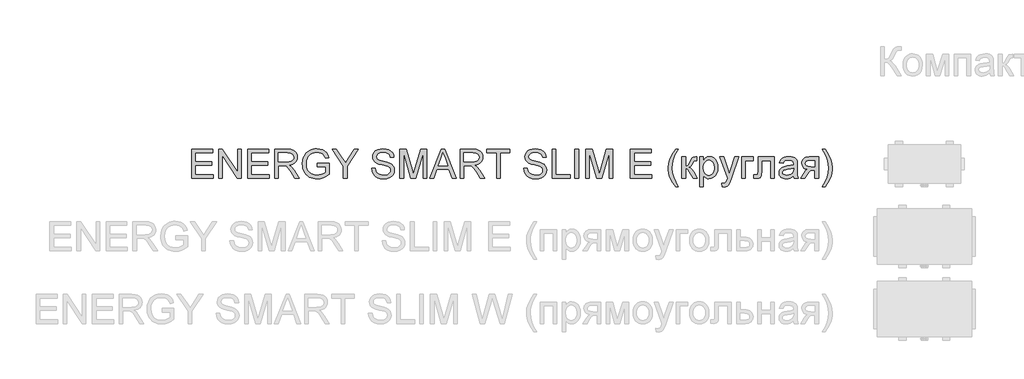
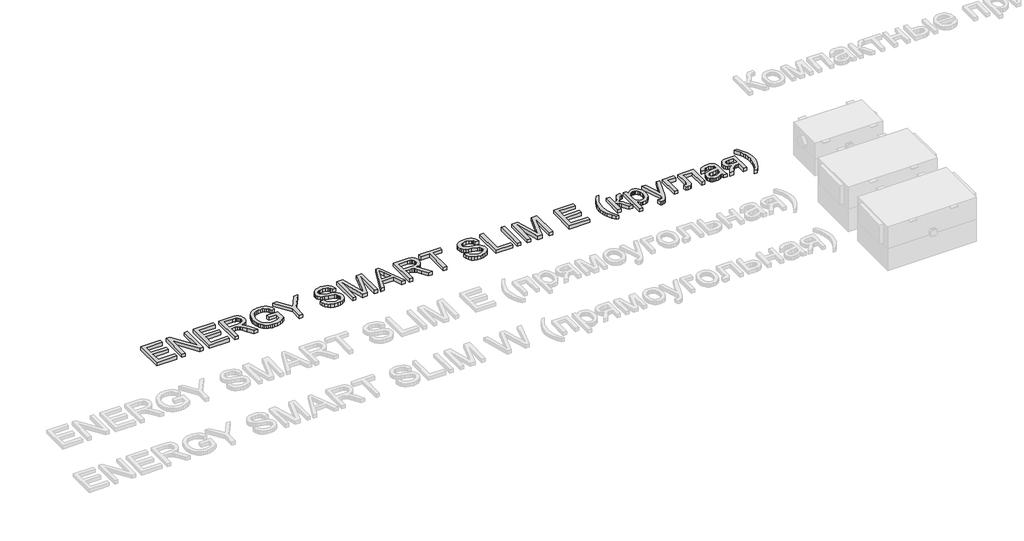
# One storey, part 27 of 28: 1 proxy.
"""IFC4 building model written with IfcOpenShell, lengths in millimetres."""

from ifc_helpers import new_model, si_unit, origin, origin_with_axes, place, context, project, spatial, polyline, outline, extrude, element, save

model = new_model("IFC4")

# Units and contexts
model_context = context("Model", 3, world=origin())
ifc_project = project(units=[si_unit("LENGTHUNIT", "METRE", prefix="MILLI")], contexts=[model_context])

# Site, building, storey
site = spatial("IfcSite", under=ifc_project)
building = spatial("IfcBuilding", under=site)
storey = spatial("IfcBuildingStorey", under=building, Name="Уровень 1", Elevation=0.0)

# Proxy
placement = place(None, origin())
element("IfcBuildingElementProxy", 1, Name="400 мм Arial", ObjectType="400 мм Arial", at=placement, inside=storey, context=model_context, shape_type="SweptSolid", body=[
    extrude(outline(polyline([(-30775.0348454, 22271.2907411), (-30775.0348454, 22673.1159817), (-30486.2229537, 22673.1159817), (-30486.2229537, 22622.8878267), (-30724.8066903, 22622.8878267), (-30724.8066903, 22503.5959584), (-30498.7799925, 22503.5959584), (-30498.7799925, 22453.3678033), (-30724.8066903, 22453.3678033), (-30724.8066903, 22321.5188962), (-30479.9444343, 22321.5188962), (-30479.9444343, 22271.2907411), (-30775.0348454, 22271.2907411)])), origin_with_axes(), (0.0, 0.0, 1.0), 50.0),
    extrude(outline(polyline([(-30404.6022017, 22271.2907411), (-30404.6022017, 22673.1159817), (-30350.8423795, 22673.1159817), (-30140.9043876, 22354.7754286), (-30140.9043876, 22673.1159817), (-30090.6762325, 22673.1159817), (-30090.6762325, 22271.2907411), (-30144.4360547, 22271.2907411), (-30354.3740466, 22589.7293962), (-30354.3740466, 22271.2907411), (-30404.6022017, 22271.2907411)])), origin_with_axes(), (0.0, 0.0, 1.0), 50.0),
    extrude(outline(polyline([(-30002.7769611, 22271.2907411), (-30002.7769611, 22673.1159817), (-29713.9650694, 22673.1159817), (-29713.9650694, 22622.8878267), (-29952.548806, 22622.8878267), (-29952.548806, 22503.5959584), (-29726.5221082, 22503.5959584), (-29726.5221082, 22453.3678033), (-29952.548806, 22453.3678033), (-29952.548806, 22321.5188962), (-29707.6865501, 22321.5188962), (-29707.6865501, 22271.2907411), (-30002.7769611, 22271.2907411)])), origin_with_axes(), (0.0, 0.0, 1.0), 50.0),
    extrude(outline(polyline([(-29632.3443174, 22271.2907411), (-29632.3443174, 22673.1159817), (-29459.194525, 22673.1159817), (-29412.6574527, 22670.4059177), (-29378.8000464, 22662.2757256), (-29354.0538508, 22647.2661402), (-29334.8504107, 22623.9178963), (-29322.5263638, 22594.9655832), (-29318.4183482, 22563.1437906), (-29320.1198025, 22542.5056107), (-29325.2241651, 22523.559688), (-29333.7314363, 22506.3060224), (-29345.6416159, 22490.744614), (-29361.1079881, 22477.3721035), (-29380.2838371, 22466.6851315), (-29403.1691629, 22458.6836981), (-29429.7639654, 22453.3678033), (-29401.2163226, 22431.8834948), (-29360.5040485, 22380.1838117), (-29293.5004744, 22271.2907411), (-29351.8710843, 22271.2907411), (-29404.1593786, 22354.5792249), (-29441.9285967, 22409.7124732), (-29455.9694262, 22425.7889164), (-29468.4651513, 22435.7585185), (-29492.3529555, 22445.3234503), (-29521.4892096, 22447.0892839), (-29582.1161624, 22447.0892839), (-29582.1161624, 22271.2907411), (-29632.3443174, 22271.2907411)]), holes=[polyline([(-29582.1161624, 22497.317439), (-29469.6914246, 22497.317439), (-29437.4036482, 22499.0955353), (-29412.3508843, 22504.4298242), (-29393.4908007, 22513.675925), (-29379.781065, 22527.189457), (-29371.4301437, 22543.5356803), (-29368.6465033, 22561.2798552), (-29373.9562668, 22585.7807961), (-29389.8855572, 22605.5237965), (-29402.0471228, 22613.1205597), (-29417.2927658, 22618.5468191), (-29457.036284, 22622.8878267), (-29582.1161624, 22622.8878267), (-29582.1161624, 22497.317439)])]), origin_with_axes(), (0.0, 0.0, 1.0), 50.0),
    extrude(outline(polyline([(-29042.1634953, 22428.2537258), (-29042.1634953, 22478.4818808), (-28878.9219913, 22478.4818808), (-28878.9219913, 22328.2879249), (-28918.5919331, 22300.6967753), (-28959.5126737, 22280.9047239), (-29001.5861112, 22268.9853473), (-29044.7141438, 22265.0122218), (-29073.5652893, 22266.5910487), (-29101.0614027, 22271.3275293), (-29127.2024842, 22279.2216638), (-29151.9885336, 22290.2734521), (-29174.6194077, 22304.3173473), (-29194.2949631, 22321.1878024), (-29211.0151997, 22340.8848176), (-29224.7801177, 22363.4083927), (-29235.531469, 22388.0380923), (-29243.2110057, 22414.0534807), (-29247.8187277, 22441.454558), (-29249.354635, 22470.2413241), (-29243.2355311, 22526.8338377), (-29235.5866513, 22553.6493695), (-29224.8782196, 22579.4777512), (-29211.3003083, 22603.1846801), (-29195.0429898, 22623.6358534), (-29176.1062641, 22640.831271), (-29154.4901312, 22654.7709329), (-29130.6636406, 22665.543744), (-29105.095842, 22673.2386091), (-29077.7867352, 22677.8555281), (-29048.7363203, 22679.3945011), (-29007.3618586, 22675.8260458), (-28970.1567261, 22665.1206797), (-28938.8254429, 22648.0509551), (-28915.0725287, 22625.3894242), (-28897.5000321, 22596.0447038), (-28884.7100014, 22558.9254104), (-28931.0140818, 22545.8778623), (-28941.3515659, 22572.3531033), (-28953.9208674, 22592.3290956), (-28970.5491336, 22607.3877319), (-28993.0635117, 22619.1109048), (-29019.9066346, 22626.6524857), (-29049.5211352, 22629.1663461), (-29084.1878819, 22626.456282), (-29113.826908, 22618.3260899), (-29138.3278489, 22605.7935766), (-29157.5803399, 22589.876549), (-29172.3569334, 22571.3966101), (-29183.4301815, 22551.1753631), (-29195.2024053, 22513.2589921), (-29199.1264799, 22472.3014633), (-29194.4053277, 22424.2683375), (-29180.2418708, 22384.7455485), (-29157.0653051, 22354.0151391), (-29125.3048262, 22332.3591523), (-29088.136482, 22319.5200707), (-29048.7363203, 22315.2403768), (-29013.9469463, 22318.4654757), (-28980.0159636, 22328.1407721), (-28950.5486158, 22341.4703631), (-28929.1501464, 22355.6583454), (-28929.1501464, 22428.2537258), (-29042.1634953, 22428.2537258)])), origin_with_axes(), (0.0, 0.0, 1.0), 50.0),
    extrude(outline(polyline([(-28684.2878904, 22271.2907411), (-28684.2878904, 22441.4974776), (-28841.250875, 22673.1159817), (-28781.9973483, 22673.1159817), (-28698.2183553, 22549.4095295), (-28655.3478401, 22486.3300301), (-28612.3792231, 22553.9222153), (-28536.3502774, 22673.1159817), (-28477.0967507, 22673.1159817), (-28634.0597353, 22441.4974776), (-28634.0597353, 22271.2907411), (-28684.2878904, 22271.2907411)])), origin_with_axes(), (0.0, 0.0, 1.0), 50.0),
    extrude(outline(polyline([(-28295.0196886, 22409.4181676), (-28244.7915335, 22409.4181676), (-28239.0280489, 22381.5449751), (-28228.6047257, 22359.1409616), (-28212.3443415, 22341.3599985), (-28189.069674, 22327.3559572), (-28160.620133, 22318.2692719), (-28128.8351286, 22315.2403768), (-28100.8515715, 22317.5335079), (-28076.3506306, 22324.4129012), (-28056.4972656, 22335.3022083), (-28042.4564362, 22349.6250806), (-28034.1055149, 22366.0694058), (-28031.3218744, 22383.3230714), (-28033.4065391, 22400.1352786), (-28039.660533, 22414.6666174), (-28052.3647246, 22427.0642406), (-28073.7999821, 22437.4753011), (-28146.9349228, 22456.6542158), (-28194.9435232, 22469.3461446), (-28225.6616698, 22481.4249368), (-28250.6653827, 22498.3229831), (-28268.3850321, 22518.8017475), (-28278.9432454, 22542.4197716), (-28282.4626498, 22568.735597), (-28278.1093795, 22598.1538939), (-28265.0495687, 22625.585628), (-28243.6265739, 22648.8357701), (-28214.1837515, 22665.7092909), (-28178.8425545, 22675.9731986), (-28139.7244357, 22679.3945011), (-28097.3444298, 22675.813783), (-28060.2619247, 22665.0716288), (-28029.8012955, 22647.3887675), (-28007.2869174, 22622.9859285), (-27993.0376215, 22593.3836907), (-27987.3722387, 22560.1026328), (-28037.6003938, 22560.1026328), (-28046.8219692, 22590.0727527), (-28055.1851532, 22601.9308157), (-28066.0499348, 22611.704214), (-28096.0936311, 22624.800813), (-28137.7623984, 22629.1663461), (-28180.4121843, 22624.849864), (-28196.7154881, 22619.4542614), (-28209.6710657, 22611.9004177), (-28226.5936375, 22592.8441304), (-28232.2344947, 22570.207125), (-28228.2368437, 22550.9055829), (-28216.2438907, 22535.3809627), (-28187.8924516, 22521.4995488), (-28134.2307312, 22507.3238292), (-28078.8522282, 22493.8593482), (-28045.3504412, 22482.1116498), (-28016.7169592, 22463.8892284), (-27996.7409669, 22441.3993757), (-27985.0055312, 22414.8873466), (-27981.0937194, 22384.5983957), (-27985.5941424, 22353.6349944), (-27999.0954117, 22324.5110031), (-28021.045704, 22299.4459765), (-28050.8931966, 22280.6594693), (-28086.7862166, 22268.9240336), (-28126.8730913, 22265.0122218), (-28176.0834395, 22269.230602), (-28216.5872472, 22281.8857426), (-28248.8504982, 22303.0266946), (-28273.3391763, 22332.7025089), (-28289.0600003, 22368.8530463), (-28295.0196886, 22409.4181676)])), origin_with_axes(), (0.0, 0.0, 1.0), 50.0),
    extrude(outline(polyline([(-27905.7514867, 22271.2907411), (-27905.7514867, 22673.1159817), (-27819.3237433, 22673.1159817), (-27737.1143802, 22389.8958964), (-27720.5351649, 22330.7404716), (-27702.5825235, 22394.8009897), (-27621.7465865, 22673.1159817), (-27535.3188431, 22673.1159817), (-27535.3188431, 22271.2907411), (-27585.5469981, 22271.2907411), (-27585.5469981, 22622.8878267), (-27686.4938176, 22271.2907411), (-27754.5765122, 22271.2907411), (-27855.5233317, 22622.8878267), (-27855.5233317, 22271.2907411), (-27905.7514867, 22271.2907411)])), origin_with_axes(), (0.0, 0.0, 1.0), 50.0),
    extrude(outline(polyline([(-27494.2141615, 22271.2907411), (-27333.8176116, 22673.1159817), (-27291.0451983, 22673.1159817), (-27130.6486484, 22271.2907411), (-27183.7217575, 22271.2907411), (-27229.7315324, 22396.8611288), (-27395.2293793, 22396.8611288), (-27441.1410523, 22271.2907411), (-27494.2141615, 22271.2907411)]), holes=[polyline([(-27376.7862286, 22447.0892839), (-27248.0765812, 22447.0892839), (-27284.2761696, 22545.8778623), (-27312.4314049, 22622.8878267), (-27337.4473806, 22554.5108265), (-27376.7862286, 22447.0892839)])]), origin_with_axes(), (0.0, 0.0, 1.0), 50.0),
    extrude(outline(polyline([(-27076.986928, 22271.2907411), (-27076.986928, 22673.1159817), (-26903.8371356, 22673.1159817), (-26857.3000632, 22670.4059177), (-26823.4426569, 22662.2757256), (-26798.6964614, 22647.2661402), (-26779.4930212, 22623.9178963), (-26767.1689744, 22594.9655832), (-26763.0609588, 22563.1437906), (-26764.762413, 22542.5056107), (-26769.8667757, 22523.559688), (-26778.3740468, 22506.3060224), (-26790.2842264, 22490.744614), (-26805.7505987, 22477.3721035), (-26824.9264477, 22466.6851315), (-26847.8117734, 22458.6836981), (-26874.406576, 22453.3678033), (-26845.8589332, 22431.8834948), (-26805.146659, 22380.1838117), (-26738.143085, 22271.2907411), (-26796.5136949, 22271.2907411), (-26848.8019891, 22354.5792249), (-26886.5712073, 22409.7124732), (-26900.6120368, 22425.7889164), (-26913.1077619, 22435.7585185), (-26936.9955661, 22445.3234503), (-26966.1318201, 22447.0892839), (-27026.7587729, 22447.0892839), (-27026.7587729, 22271.2907411), (-27076.986928, 22271.2907411)]), holes=[polyline([(-27026.7587729, 22497.317439), (-26914.3340352, 22497.317439), (-26882.0462588, 22499.0955353), (-26856.9934949, 22504.4298242), (-26838.1334113, 22513.675925), (-26824.4236756, 22527.189457), (-26816.0727543, 22543.5356803), (-26813.2891139, 22561.2798552), (-26818.5988773, 22585.7807961), (-26834.5281677, 22605.5237965), (-26846.6897333, 22613.1205597), (-26861.9353764, 22618.5468191), (-26901.6788946, 22622.8878267), (-27026.7587729, 22622.8878267), (-27026.7587729, 22497.317439)])]), origin_with_axes(), (0.0, 0.0, 1.0), 50.0),
    extrude(outline(polyline([(-26574.7053773, 22271.2907411), (-26574.7053773, 22622.8878267), (-26706.5542843, 22622.8878267), (-26706.5542843, 22673.1159817), (-26392.6283151, 22673.1159817), (-26392.6283151, 22622.8878267), (-26524.4772222, 22622.8878267), (-26524.4772222, 22271.2907411), (-26574.7053773, 22271.2907411)])), origin_with_axes(), (0.0, 0.0, 1.0), 50.0),
    extrude(outline(polyline([(-26197.9942142, 22409.4181676), (-26147.7660591, 22409.4181676), (-26142.0025745, 22381.5449751), (-26131.5792513, 22359.1409616), (-26115.3188672, 22341.3599985), (-26092.0441996, 22327.3559572), (-26063.5946586, 22318.2692719), (-26031.8096542, 22315.2403768), (-26003.8260971, 22317.5335079), (-25979.3251563, 22324.4129012), (-25959.4717913, 22335.3022083), (-25945.4309618, 22349.6250806), (-25937.0800405, 22366.0694058), (-25934.2964001, 22383.3230714), (-25936.3810647, 22400.1352786), (-25942.6350586, 22414.6666174), (-25955.3392502, 22427.0642406), (-25976.7745078, 22437.4753011), (-26049.9094484, 22456.6542158), (-26097.9180488, 22469.3461446), (-26128.6361954, 22481.4249368), (-26153.6399083, 22498.3229831), (-26171.3595578, 22518.8017475), (-26181.917771, 22542.4197716), (-26185.4371754, 22568.735597), (-26181.0839052, 22598.1538939), (-26168.0240943, 22625.585628), (-26146.6010995, 22648.8357701), (-26117.1582771, 22665.7092909), (-26081.8170801, 22675.9731986), (-26042.6989613, 22679.3945011), (-26000.3189555, 22675.813783), (-25963.2364503, 22665.0716288), (-25932.7758211, 22647.3887675), (-25910.261443, 22622.9859285), (-25896.0121471, 22593.3836907), (-25890.3467644, 22560.1026328), (-25940.5749194, 22560.1026328), (-25949.7964948, 22590.0727527), (-25958.1596788, 22601.9308157), (-25969.0244604, 22611.704214), (-25999.0681567, 22624.800813), (-26040.736924, 22629.1663461), (-26083.38671, 22624.849864), (-26099.6900137, 22619.4542614), (-26112.6455913, 22611.9004177), (-26129.5681631, 22592.8441304), (-26135.2090204, 22570.207125), (-26131.2113693, 22550.9055829), (-26119.2184163, 22535.3809627), (-26090.8669772, 22521.4995488), (-26037.2052568, 22507.3238292), (-25981.8267538, 22493.8593482), (-25948.3249668, 22482.1116498), (-25919.6914849, 22463.8892284), (-25899.7154925, 22441.3993757), (-25887.9800569, 22414.8873466), (-25884.068245, 22384.5983957), (-25888.5686681, 22353.6349944), (-25902.0699373, 22324.5110031), (-25924.0202297, 22299.4459765), (-25953.8677222, 22280.6594693), (-25989.7607422, 22268.9240336), (-26029.8476169, 22265.0122218), (-26079.0579652, 22269.230602), (-26119.5617728, 22281.8857426), (-26151.8250238, 22303.0266946), (-26176.313702, 22332.7025089), (-26192.0345259, 22368.8530463), (-26197.9942142, 22409.4181676)])), origin_with_axes(), (0.0, 0.0, 1.0), 50.0),
    extrude(outline(polyline([(-25808.7260124, 22271.2907411), (-25808.7260124, 22673.1159817), (-25758.4978573, 22673.1159817), (-25758.4978573, 22321.5188962), (-25557.585237, 22321.5188962), (-25557.585237, 22271.2907411), (-25808.7260124, 22271.2907411)])), origin_with_axes(), (0.0, 0.0, 1.0), 50.0),
    extrude(outline(polyline([(-25494.8000432, 22271.2907411), (-25494.8000432, 22673.1159817), (-25444.5718881, 22673.1159817), (-25444.5718881, 22271.2907411), (-25494.8000432, 22271.2907411)])), origin_with_axes(), (0.0, 0.0, 1.0), 50.0),
    extrude(outline(polyline([(-25344.1155779, 22271.2907411), (-25344.1155779, 22673.1159817), (-25257.6878345, 22673.1159817), (-25175.4784713, 22389.8958964), (-25158.8992561, 22330.7404716), (-25140.9466147, 22394.8009897), (-25060.1106777, 22673.1159817), (-24973.6829343, 22673.1159817), (-24973.6829343, 22271.2907411), (-25023.9110893, 22271.2907411), (-25023.9110893, 22622.8878267), (-25124.8579088, 22271.2907411), (-25192.9406034, 22271.2907411), (-25293.8874229, 22622.8878267), (-25293.8874229, 22271.2907411), (-25344.1155779, 22271.2907411)])), origin_with_axes(), (0.0, 0.0, 1.0), 50.0),
    extrude(outline(polyline([(-24728.8206783, 22271.2907411), (-24728.8206783, 22673.1159817), (-24440.0087866, 22673.1159817), (-24440.0087866, 22622.8878267), (-24678.5925232, 22622.8878267), (-24678.5925232, 22503.5959584), (-24452.5658254, 22503.5959584), (-24452.5658254, 22453.3678033), (-24678.5925232, 22453.3678033), (-24678.5925232, 22321.5188962), (-24433.7302672, 22321.5188962), (-24433.7302672, 22271.2907411), (-24728.8206783, 22271.2907411)])), origin_with_axes(), (0.0, 0.0, 1.0), 50.0),
    extrude(outline(polyline([(-24107.2472592, 22158.2773922), (-24146.1691743, 22212.8956058), (-24178.5673153, 22276.0977325), (-24191.3144265, 22310.1513426), (-24200.4195059, 22344.8180892), (-24205.8825535, 22380.0979726), (-24207.7035694, 22415.9909926), (-24202.2589158, 22478.4083044), (-24185.9249552, 22538.127815), (-24153.5022887, 22605.7690512), (-24107.2472592, 22673.1159817), (-24069.5761429, 22673.1159817), (-24116.5669364, 22593.5553689), (-24132.6065914, 22555.7861507), (-24144.8202737, 22516.4473027), (-24154.3116291, 22466.1946222), (-24157.4754143, 22415.696687), (-24151.9817098, 22351.3050751), (-24135.5005964, 22286.9379887), (-24108.0320741, 22222.5954277), (-24069.5761429, 22158.2773922), (-24107.2472592, 22158.2773922)])), origin_with_axes(), (0.0, 0.0, 1.0), 50.0),
    extrude(outline(polyline([(-24019.3479878, 22566.3811522), (-23969.1198328, 22566.3811522), (-23969.1198328, 22440.8107645), (-23948.6901193, 22443.0671074), (-23935.4708929, 22449.8361361), (-23923.7722455, 22467.4944719), (-23907.9042688, 22502.418736), (-23884.9974832, 22547.7908487), (-23875.5551787, 22556.9511104), (-23864.7884989, 22562.5551795), (-23828.0493503, 22566.3811522), (-23818.4353675, 22566.3811522), (-23818.4353675, 22515.8586915), (-23831.973425, 22516.1529971), (-23847.6697234, 22514.8286219), (-23856.4988913, 22510.8554964), (-23873.7648196, 22477.7951678), (-23884.3720838, 22455.7590363), (-23894.0228548, 22442.0370378), (-23905.7092395, 22432.8767762), (-23922.4233448, 22424.5258549), (-23906.5063172, 22417.4563892), (-23890.7364423, 22404.9790582), (-23875.1137203, 22387.0938619), (-23859.638151, 22363.8008002), (-23805.8783288, 22271.2907411), (-23862.9736144, 22271.2907411), (-23915.6543161, 22361.8387629), (-23929.8790866, 22385.9350336), (-23942.1418198, 22400.1475413), (-23954.5271803, 22407.100511), (-23969.1198328, 22409.4181676), (-23969.1198328, 22271.2907411), (-24019.3479878, 22271.2907411), (-24019.3479878, 22566.3811522)])), origin_with_axes(), (0.0, 0.0, 1.0), 50.0),
    extrude(outline(polyline([(-23774.4857318, 22158.2773922), (-23774.4857318, 22566.3811522), (-23724.2575768, 22566.3811522), (-23724.2575768, 22517.1340158), (-23707.8745653, 22541.4264902), (-23689.5295164, 22558.7782576), (-23668.1433098, 22569.1893181), (-23642.6368248, 22572.6596716), (-23608.6690539, 22567.8036293), (-23578.9687141, 22553.2355022), (-23554.7866043, 22529.8382074), (-23537.3735232, 22498.4946614), (-23526.8520982, 22461.4857326), (-23523.3449565, 22421.0922896), (-23527.3058193, 22378.1359353), (-23539.1884077, 22339.7167922), (-23558.6125771, 22307.7846351), (-23585.1981826, 22284.2892383), (-23616.1615839, 22269.8314759), (-23648.7191404, 22265.0122218), (-23671.809867, 22268.2373206), (-23692.4235215, 22277.9126171), (-23710.0695945, 22292.5175323), (-23724.2575768, 22310.5314873), (-23724.2575768, 22158.2773922), (-23774.4857318, 22158.2773922)]), holes=[polyline([(-23724.2575768, 22416.4815019), (-23718.825186, 22371.4527457), (-23712.0346975, 22354.0151391), (-23702.5280136, 22339.9620469), (-23678.4807938, 22321.4207944), (-23664.7189415, 22316.7854812), (-23649.7982609, 22315.2403768), (-23634.6629825, 22316.8406635), (-23620.6497442, 22321.6415235), (-23607.7585459, 22329.6429569), (-23595.9893878, 22340.8449637), (-23586.1822669, 22355.4069593), (-23579.1771806, 22373.4883594), (-23574.9741288, 22395.0891639), (-23573.5731115, 22420.2093728), (-23579.0422905, 22464.9928743), (-23585.8787643, 22482.565371), (-23595.4498275, 22496.9250315), (-23619.4602591, 22516.0548953), (-23633.0657615, 22520.8373612), (-23647.7381218, 22522.4315165), (-23662.3644968, 22520.7361937), (-23676.1263491, 22515.6502251), (-23701.0564856, 22495.3063507), (-23711.206963, 22480.2078605), (-23718.457304, 22462.0375556), (-23722.8075086, 22440.7954361), (-23724.2575768, 22416.4815019)])]), origin_with_axes(), (0.0, 0.0, 1.0), 50.0),
    extrude(outline(polyline([(-23466.838282, 22158.2773922), (-23473.1168014, 22206.6416119), (-23447.6103164, 22202.2270279), (-23434.1948863, 22203.6127168), (-23423.7715631, 22207.7697833), (-23409.1543852, 22223.2208271), (-23395.420124, 22260.2052304), (-23391.4960494, 22272.3698617), (-23498.2308789, 22566.3811522), (-23445.2558716, 22566.3811522), (-23388.6510953, 22402.551037), (-23368.9326204, 22337.0189909), (-23349.2141454, 22394.8990915), (-23291.0397392, 22566.3811522), (-23238.4571394, 22566.3811522), (-23341.1697925, 22264.2274068), (-23367.8534998, 22198.6953608), (-23381.5141846, 22177.775138), (-23396.9897539, 22163.2805874), (-23414.9669207, 22154.8193015), (-23436.1323981, 22151.9988728), (-23466.838282, 22158.2773922)])), origin_with_axes(), (0.0, 0.0, 1.0), 50.0),
    extrude(outline(polyline([(-23196.8619485, 22566.3811522), (-23033.6204445, 22566.3811522), (-23033.6204445, 22516.1529971), (-23146.6337934, 22516.1529971), (-23146.6337934, 22271.2907411), (-23196.8619485, 22271.2907411), (-23196.8619485, 22566.3811522)])), origin_with_axes(), (0.0, 0.0, 1.0), 50.0),
    extrude(outline(polyline([(-22970.8352506, 22566.3811522), (-22744.8085528, 22566.3811522), (-22744.8085528, 22271.5850467), (-22795.0367079, 22271.5850467), (-22795.0367079, 22516.1529971), (-22920.6070956, 22516.1529971), (-22920.6070956, 22375.3768203), (-22923.9916099, 22310.4333854), (-22930.331443, 22295.7303684), (-22942.5819134, 22283.0139141), (-22961.1722169, 22274.2215344), (-22986.5315491, 22271.2907411), (-23027.3419251, 22273.8413896), (-23027.3419251, 22321.5188962), (-23004.8765979, 22321.5188962), (-22982.1660161, 22324.609105), (-22973.0915936, 22334.4192915), (-22970.8352506, 22378.2217744), (-22970.8352506, 22566.3811522)])), origin_with_axes(), (0.0, 0.0, 1.0), 50.0),
    extrude(outline(polyline([(-22481.1107387, 22308.9618574), (-22505.1089075, 22288.3849912), (-22529.8183148, 22274.9205102), (-22555.8030464, 22267.4892939), (-22583.627188, 22265.0122218), (-22605.9913476, 22266.5021438), (-22625.6025236, 22270.9719101), (-22642.4607161, 22278.4215205), (-22656.5659249, 22288.850975), (-22667.7035523, 22301.5980862), (-22675.6590005, 22316.0006663), (-22680.4322693, 22332.0587154), (-22682.023359, 22349.7722334), (-22679.6198633, 22370.5943544), (-22672.4093762, 22389.5034889), (-22661.2870772, 22405.6902967), (-22647.1481458, 22418.3454373), (-22630.5321424, 22427.9103692), (-22611.9786271, 22434.8265507), (-22568.5195007, 22442.3803944), (-22517.1631742, 22450.3266455), (-22481.4050443, 22459.6463227), (-22481.1107387, 22470.8299353), (-22484.5688294, 22493.2462116), (-22494.9431017, 22507.9124404), (-22518.1441928, 22518.8017475), (-22550.4687575, 22522.4315165), (-22580.3898264, 22520.0157581), (-22601.2855238, 22512.7684828), (-22615.5348197, 22499.3653154), (-22625.5166845, 22478.4818808), (-22675.7448396, 22484.7604002), (-22667.0260363, 22512.2289225), (-22654.0152764, 22533.8113329), (-22635.4985493, 22550.3169718), (-22610.2618444, 22562.5551795), (-22579.396545, 22570.1335486), (-22543.9940344, 22572.6596716), (-22510.0385262, 22570.4278542), (-22483.1218269, 22563.7324018), (-22462.8270035, 22553.6646979), (-22448.7371231, 22541.3161256), (-22439.3929204, 22526.0490228), (-22433.3351302, 22507.2257274), (-22430.8825836, 22463.2760917), (-22430.8825836, 22400.7852034), (-22428.3319351, 22313.5235942), (-22418.3255448, 22271.2907411), (-22468.5536999, 22271.2907411), (-22476.5980529, 22288.7528732), (-22481.1107387, 22308.9618574)]), holes=[polyline([(-22481.1107387, 22409.4181676), (-22514.8577804, 22401.0549836), (-22562.1428795, 22394.0161747), (-22605.3567512, 22385.8737199), (-22616.6016775, 22380.306439), (-22624.9280733, 22372.6299681), (-22630.0784212, 22363.4329182), (-22631.7952039, 22353.3039006), (-22628.0550703, 22338.3678916), (-22616.8346694, 22326.1296839), (-22598.379256, 22317.9627036), (-22572.9340847, 22315.2403768), (-22545.9560717, 22318.2447465), (-22522.1173184, 22327.2578553), (-22502.7912509, 22340.5383954), (-22489.3512954, 22356.3450584), (-22483.391607, 22372.6299681), (-22481.4050443, 22395.1933971), (-22481.1107387, 22409.4181676)])]), origin_with_axes(), (0.0, 0.0, 1.0), 50.0),
    extrude(outline(polyline([(-22135.7921725, 22566.3811522), (-22135.7921725, 22271.2907411), (-22186.0203276, 22271.2907411), (-22186.0203276, 22384.3040901), (-22213.390748, 22384.3040901), (-22235.2184131, 22382.7099347), (-22250.6694569, 22377.9274688), (-22265.556415, 22364.0215294), (-22285.6918228, 22335.0569536), (-22325.7173839, 22271.2907411), (-22383.7936882, 22271.2907411), (-22333.3693294, 22351.9304745), (-22311.100206, 22380.8705248), (-22290.5969161, 22393.7218691), (-22324.932569, 22404.2432942), (-22338.2744227, 22413.054068), (-22349.0656279, 22424.2315493), (-22363.3394493, 22450.8171548), (-22368.0973897, 22481.1306312), (-22366.4725776, 22499.2181626), (-22361.5981412, 22515.515335), (-22353.4740804, 22530.0221484), (-22342.1003954, 22542.7386027), (-22327.6487644, 22553.0822181), (-22310.2908656, 22560.4705148), (-22290.026699, 22564.9034929), (-22266.8562647, 22566.3811522), (-22135.7921725, 22566.3811522)]), holes=[polyline([(-22186.0203276, 22516.1529971), (-22252.2390867, 22516.1529971), (-22286.4398496, 22513.2467294), (-22305.8517562, 22504.5279261), (-22314.864865, 22491.9095736), (-22317.8692347, 22477.3046584), (-22313.442388, 22458.162532), (-22300.161848, 22444.8819919), (-22275.6241189, 22437.1196818), (-22237.4257051, 22434.5322451), (-22186.0203276, 22434.5322451), (-22186.0203276, 22516.1529971)])]), origin_with_axes(), (0.0, 0.0, 1.0), 50.0),
    extrude(outline(polyline([(-22047.8929011, 22158.2773922), (-22085.5640175, 22158.2773922), (-22047.1080862, 22222.5954277), (-22019.6395639, 22286.9379887), (-22003.1584505, 22351.3050751), (-21997.6647461, 22415.696687), (-22000.8285312, 22465.8267402), (-22010.3198867, 22515.5643859), (-22022.3128397, 22554.9768104), (-22038.2789183, 22592.770554), (-22085.5640175, 22673.1159817), (-22047.8929011, 22673.1159817), (-22001.6378716, 22605.7690512), (-21969.2152051, 22538.127815), (-21952.8812445, 22478.4083044), (-21947.436591, 22415.9909926), (-21949.2668039, 22380.0979726), (-21954.7574427, 22344.8180892), (-21963.9085073, 22310.1513426), (-21976.7199978, 22276.0977325), (-22009.1549271, 22212.8956058), (-22047.8929011, 22158.2773922)])), origin_with_axes(), (0.0, 0.0, 1.0), 50.0),
])

save(model, "model.ifc")
